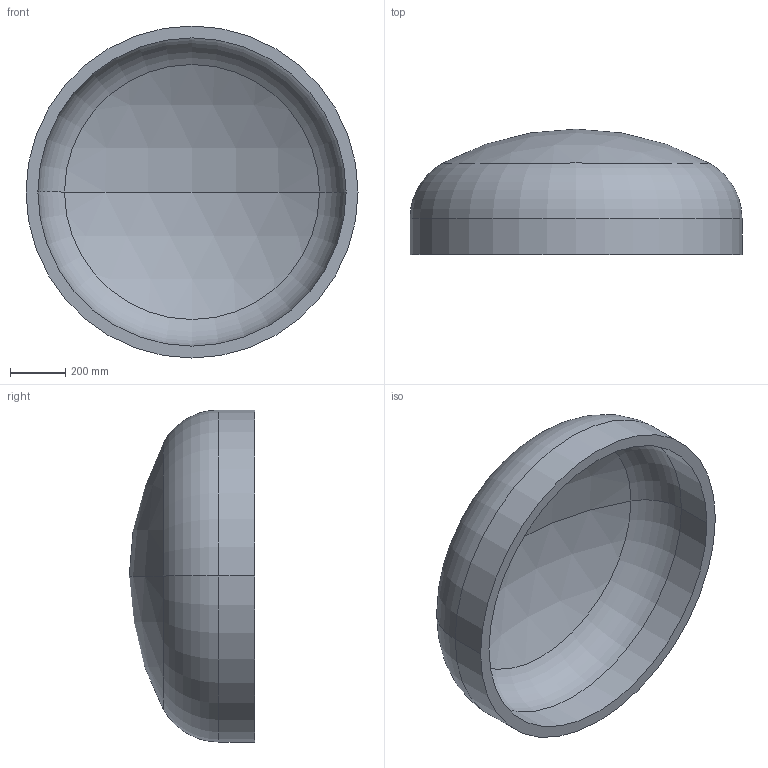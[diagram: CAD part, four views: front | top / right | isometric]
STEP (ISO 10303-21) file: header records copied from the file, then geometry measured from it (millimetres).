
FILE_DESCRIPTION (( 'STEP AP203' ), '1' );
FILE_NAME ('DIN 28013 Korbbogenform_-_Boden DIN 28013 - 1200 x 130 - I - s=43.step', '2016-07-01T09:29:13', ( '' ), ( '' ), 'SwSTEP 2.0', 'SolidWorks 2013', '' );
FILE_SCHEMA (( 'CONFIG_CONTROL_DESIGN' ));
Length unit declared in the file: millimetre
Products named in the file (1): DIN 28013 Korbbogenform_-_Boden DIN 28013 - 1200 x 130 - I - s=43
Bounding box: 1200 x 453.12 x 1200 mm (x, y, z)
Volume: 84621121.4 mm3; surface area: 4096035 mm2
Topology: 1 solids, 1 shells, 13 faces, 24 edges, 14 vertices
Faces by surface type: torus 4, cylinder 4, sphere 4, plane 1
Entity records: 407 total; most frequent: DIRECTION 72, CARTESIAN_POINT 52, ORIENTED_EDGE 48, AXIS2_PLACEMENT_3D 34, EDGE_CURVE 24, CIRCLE 20, EDGE_LOOP 14, VERTEX_POINT 14
